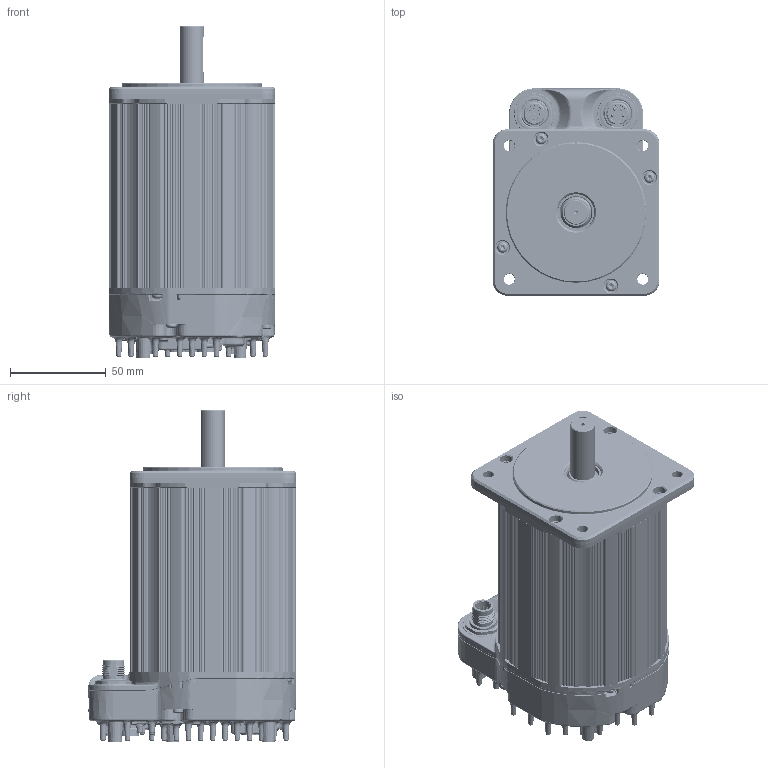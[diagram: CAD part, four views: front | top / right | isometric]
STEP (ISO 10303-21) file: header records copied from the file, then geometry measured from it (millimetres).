
FILE_DESCRIPTION (( 'STEP AP214' ), '1' );
FILE_NAME ('CPMS 344x.STEP', '2023-08-08T19:33:45', ( '' ), ( '' ), 'SwSTEP 2.0', 'SolidWorks 2020', '' );
FILE_SCHEMA (( 'AUTOMOTIVE_DESIGN' ));
Length unit declared in the file: inch
Products named in the file (1): CPMS 344x
Bounding box: 86.87 x 108.59 x 173.16 mm (x, y, z)
Volume: 322401.2 mm3; surface area: 201090.8 mm2
Topology: 33 solids, 41 shells, 10864 faces, 27443 edges, 16325 vertices
Faces by surface type: cylinder 4012, bspline 2739, torus 1384, plane 1353, cone 1287, sphere 89
Entity records: 802258 total; most frequent: CARTESIAN_POINT 429375, ORIENTED_EDGE 53748, DIRECTION 42312, EDGE_CURVE 26874, AXIS2_PLACEMENT_3D 17482, VERTEX_POINT 16314, EDGE_LOOP 11474, LENGTH_MEASURE_WITH_UNIT 10891
